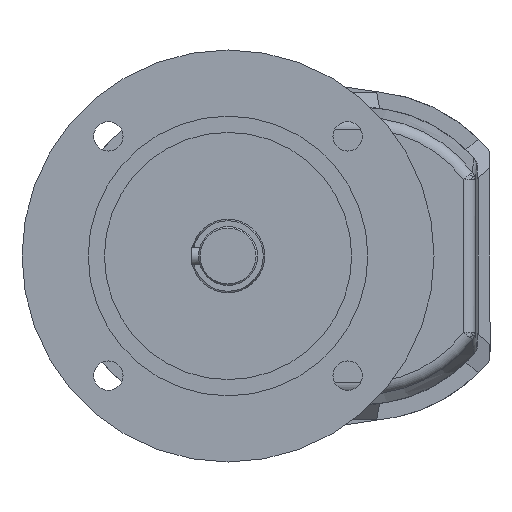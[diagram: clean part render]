
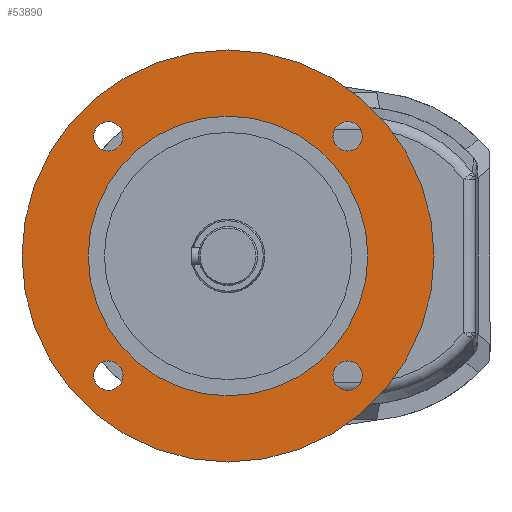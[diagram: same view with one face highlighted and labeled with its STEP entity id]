
A CAD part, left-side view. The second image highlights one B-rep face of the part: STEP entity #53890.
In plain terms, the highlighted planar face has unit normal (-1, 0, 0) as drawn and (0, 1, -0.026) by its records, which use the part's own axes.
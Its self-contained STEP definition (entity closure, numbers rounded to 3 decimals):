
#52810=CARTESIAN_POINT('',(-134.,714.035,
-131.763));
#52820=VERTEX_POINT('',#52810);
#52900=CARTESIAN_POINT('',(6.,714.035,
-131.763));
#52910=VERTEX_POINT('',#52900);
#52940=CARTESIAN_POINT('',(-64.,714.035,
-131.763));
#52950=DIRECTION('',(0.,1.,
-0.026));
#52960=DIRECTION('',(-1.,0.,0.));
#52970=AXIS2_PLACEMENT_3D('',#52940,#52950,#52960);
#52980=CIRCLE('',#52970,70.);
#52990=EDGE_CURVE('',#52910,#52820,#52980,.T.);
#53040=CARTESIAN_POINT('',(-87.18,714.662,
-107.849));
#53050=DIRECTION('',(0.,1.,
-0.026));
#53060=DIRECTION('',(-1.,0.,0.));
#53070=AXIS2_PLACEMENT_3D('',#53040,#53050,#53060);
#53080=PLANE('',#53070);
#53090=EDGE_CURVE('',#52820,#52910,#52980,.T.);
#53100=ORIENTED_EDGE('',*,*,#53090,.T.);
#53110=ORIENTED_EDGE('',*,*,#52990,.T.);
#53120=EDGE_LOOP('',(#53110,#53100));
#53130=FACE_OUTER_BOUND('',#53120,.T.);
#53140=CARTESIAN_POINT('',(-64.,714.035,
-131.763));
#53150=DIRECTION('',(0.,1.,
-0.026));
#53160=DIRECTION('',(-1.,0.,0.));
#53170=AXIS2_PLACEMENT_3D('',#53140,#53150,#53160);
#53180=CIRCLE('',#53170,47.5);
#53190=CARTESIAN_POINT('',(-111.5,714.035,
-131.763));
#53200=VERTEX_POINT('',#53190);
#53210=CARTESIAN_POINT('',(-16.5,714.035,
-131.763));
#53220=VERTEX_POINT('',#53210);
#53230=EDGE_CURVE('',#53200,#53220,#53180,.T.);
#53240=ORIENTED_EDGE('',*,*,#53230,.F.);
#53250=EDGE_CURVE('',#53220,#53200,#53180,.T.);
#53260=ORIENTED_EDGE('',*,*,#53250,.F.);
#53270=EDGE_LOOP('',(#53260,#53240));
#53280=FACE_BOUND('',#53270,.T.);
#53290=CARTESIAN_POINT('',(-104.659,712.971,
-172.407));
#53300=DIRECTION('',(0.,1.,
-0.026));
#53310=DIRECTION('',(-1.,0.,0.));
#53320=AXIS2_PLACEMENT_3D('',#53290,#53300,#53310);
#53330=CIRCLE('',#53320,5.);
#53340=CARTESIAN_POINT('',(-109.659,712.971,
-172.407));
#53350=VERTEX_POINT('',#53340);
#53360=CARTESIAN_POINT('',(-99.659,712.971,
-172.407));
#53370=VERTEX_POINT('',#53360);
#53380=EDGE_CURVE('',#53350,#53370,#53330,.T.);
#53390=ORIENTED_EDGE('',*,*,#53380,.F.);
#53400=EDGE_CURVE('',#53370,#53350,#53330,.T.);
#53410=ORIENTED_EDGE('',*,*,#53400,.F.);
#53420=EDGE_LOOP('',(#53410,#53390));
#53430=FACE_BOUND('',#53420,.T.);
#53440=CARTESIAN_POINT('',(-23.341,712.971,
-172.407));
#53450=DIRECTION('',(0.,1.,
-0.026));
#53460=DIRECTION('',(-1.,0.,0.));
#53470=AXIS2_PLACEMENT_3D('',#53440,#53450,#53460);
#53480=CIRCLE('',#53470,5.);
#53490=CARTESIAN_POINT('',(-28.341,712.971,
-172.407));
#53500=VERTEX_POINT('',#53490);
#53510=CARTESIAN_POINT('',(-18.341,712.971,
-172.407));
#53520=VERTEX_POINT('',#53510);
#53530=EDGE_CURVE('',#53500,#53520,#53480,.T.);
#53540=ORIENTED_EDGE('',*,*,#53530,.F.);
#53550=EDGE_CURVE('',#53520,#53500,#53480,.T.);
#53560=ORIENTED_EDGE('',*,*,#53550,.F.);
#53570=EDGE_LOOP('',(#53560,#53540));
#53580=FACE_BOUND('',#53570,.T.);
#53590=CARTESIAN_POINT('',(-104.659,715.1,
-91.118));
#53600=DIRECTION('',(0.,1.,
-0.026));
#53610=DIRECTION('',(-1.,0.,0.));
#53620=AXIS2_PLACEMENT_3D('',#53590,#53600,#53610);
#53630=CIRCLE('',#53620,5.);
#53640=CARTESIAN_POINT('',(-109.659,715.1,
-91.118));
#53650=VERTEX_POINT('',#53640);
#53660=CARTESIAN_POINT('',(-99.659,715.1,
-91.118));
#53670=VERTEX_POINT('',#53660);
#53680=EDGE_CURVE('',#53650,#53670,#53630,.T.);
#53690=ORIENTED_EDGE('',*,*,#53680,.F.);
#53700=EDGE_CURVE('',#53670,#53650,#53630,.T.);
#53710=ORIENTED_EDGE('',*,*,#53700,.F.);
#53720=EDGE_LOOP('',(#53710,#53690));
#53730=FACE_BOUND('',#53720,.T.);
#53740=CARTESIAN_POINT('',(-23.341,715.1,
-91.118));
#53750=DIRECTION('',(0.,1.,
-0.026));
#53760=DIRECTION('',(-1.,0.,0.));
#53770=AXIS2_PLACEMENT_3D('',#53740,#53750,#53760);
#53780=CIRCLE('',#53770,5.);
#53790=CARTESIAN_POINT('',(-28.341,715.1,
-91.118));
#53800=VERTEX_POINT('',#53790);
#53810=CARTESIAN_POINT('',(-18.341,715.1,
-91.118));
#53820=VERTEX_POINT('',#53810);
#53830=EDGE_CURVE('',#53800,#53820,#53780,.T.);
#53840=ORIENTED_EDGE('',*,*,#53830,.F.);
#53850=EDGE_CURVE('',#53820,#53800,#53780,.T.);
#53860=ORIENTED_EDGE('',*,*,#53850,.F.);
#53870=EDGE_LOOP('',(#53860,#53840));
#53880=FACE_BOUND('',#53870,.T.);
#53890=ADVANCED_FACE('',(#53130,#53280,#53430,#53580,#53730,#53880),
#53080,.T.);
